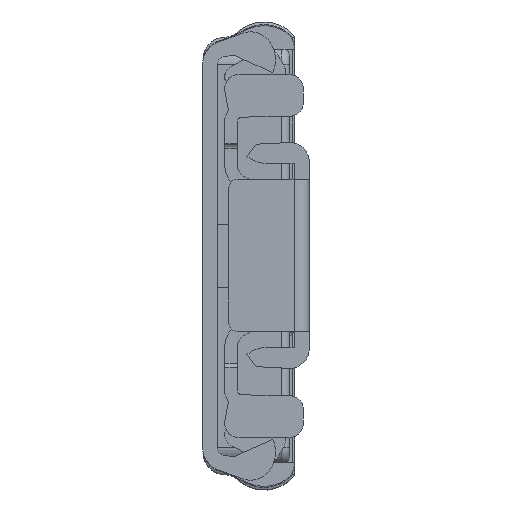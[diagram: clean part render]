
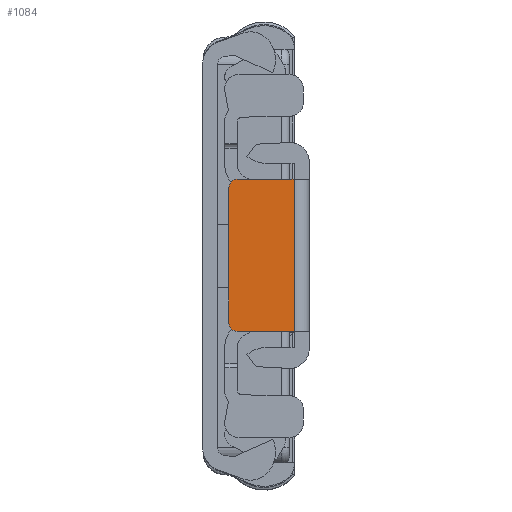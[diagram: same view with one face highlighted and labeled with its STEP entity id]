
A CAD part, front view. The second image highlights one B-rep face of the part: STEP entity #1084.
In plain terms, the highlighted planar face has unit normal (0, -1, 0).
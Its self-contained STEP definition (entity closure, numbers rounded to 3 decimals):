
#1084 = ADVANCED_FACE( '', ( #2705 ), #2706, .T. );
#2705 = FACE_OUTER_BOUND( '', #4992, .T. );
#2706 = PLANE( '', #4993 );
#4992 = EDGE_LOOP( '', ( #7999, #8000, #8001, #8002, #8003, #8004 ) );
#4993 = AXIS2_PLACEMENT_3D( '', #8005, #8006, #8007 );
#7999 = ORIENTED_EDGE( '', *, *, #13662, .T. );
#8000 = ORIENTED_EDGE( '', *, *, #14181, .T. );
#8001 = ORIENTED_EDGE( '', *, *, #13674, .T. );
#8002 = ORIENTED_EDGE( '', *, *, #14014, .T. );
#8003 = ORIENTED_EDGE( '', *, *, #14182, .T. );
#8004 = ORIENTED_EDGE( '', *, *, #14183, .T. );
#8005 = CARTESIAN_POINT( '', ( -9., -525.302, -2.366 ) );
#8006 = DIRECTION( '', ( 0., -1., 0. ) );
#8007 = DIRECTION( '', ( 0., 0., -1. ) );
#13662 = EDGE_CURVE( '', #16475, #16473, #16476, .T. );
#13674 = EDGE_CURVE( '', #16496, #16497, #16498, .T. );
#14014 = EDGE_CURVE( '', #16497, #17085, #17088, .T. );
#14181 = EDGE_CURVE( '', #16473, #16496, #17363, .T. );
#14182 = EDGE_CURVE( '', #17085, #17364, #17365, .T. );
#14183 = EDGE_CURVE( '', #17364, #16475, #17366, .T. );
#16473 = VERTEX_POINT( '', #20488 );
#16475 = VERTEX_POINT( '', #20491 );
#16476 = LINE( '', #20492, #20493 );
#16496 = VERTEX_POINT( '', #20520 );
#16497 = VERTEX_POINT( '', #20521 );
#16498 = LINE( '', #20522, #20523 );
#17085 = VERTEX_POINT( '', #21385 );
#17088 = LINE( '', #21388, #21389 );
#17363 = CIRCLE( '', #21757, 1. );
#17364 = VERTEX_POINT( '', #21758 );
#17365 = LINE( '', #21759, #21760 );
#17366 = CIRCLE( '', #21761, 1. );
#20488 = CARTESIAN_POINT( '', ( -8., -525.302, 5.8 ) );
#20491 = CARTESIAN_POINT( '', ( 8., -525.302, 5.8 ) );
#20492 = CARTESIAN_POINT( '', ( 9., -525.302, 5.8 ) );
#20493 = VECTOR( '', #25748, 1000. );
#20520 = CARTESIAN_POINT( '', ( -9., -525.302, 4.8 ) );
#20521 = CARTESIAN_POINT( '', ( -9., -525.302, -1.898 ) );
#20522 = CARTESIAN_POINT( '', ( -9., -525.302, -2.366 ) );
#20523 = VECTOR( '', #25762, 1000. );
#21385 = CARTESIAN_POINT( '', ( 9., -525.302, -1.898 ) );
#21388 = CARTESIAN_POINT( '', ( -9., -525.302, -1.898 ) );
#21389 = VECTOR( '', #26196, 1000. );
#21757 = AXIS2_PLACEMENT_3D( '', #26425, #26426, #26427 );
#21758 = CARTESIAN_POINT( '', ( 9., -525.302, 4.8 ) );
#21759 = CARTESIAN_POINT( '', ( 9., -525.302, -2.366 ) );
#21760 = VECTOR( '', #26428, 1000. );
#21761 = AXIS2_PLACEMENT_3D( '', #26429, #26430, #26431 );
#25748 = DIRECTION( '', ( -1., 0., 0. ) );
#25762 = DIRECTION( '', ( 0., 0., -1. ) );
#26196 = DIRECTION( '', ( 1., 0., 0. ) );
#26425 = CARTESIAN_POINT( '', ( -8., -525.302, 4.8 ) );
#26426 = DIRECTION( '', ( 0., -1., 0. ) );
#26427 = DIRECTION( '', ( 0., 0., -1. ) );
#26428 = DIRECTION( '', ( 0., 0., 1. ) );
#26429 = CARTESIAN_POINT( '', ( 8., -525.302, 4.8 ) );
#26430 = DIRECTION( '', ( 0., -1., 0. ) );
#26431 = DIRECTION( '', ( 0., 0., -1. ) );
